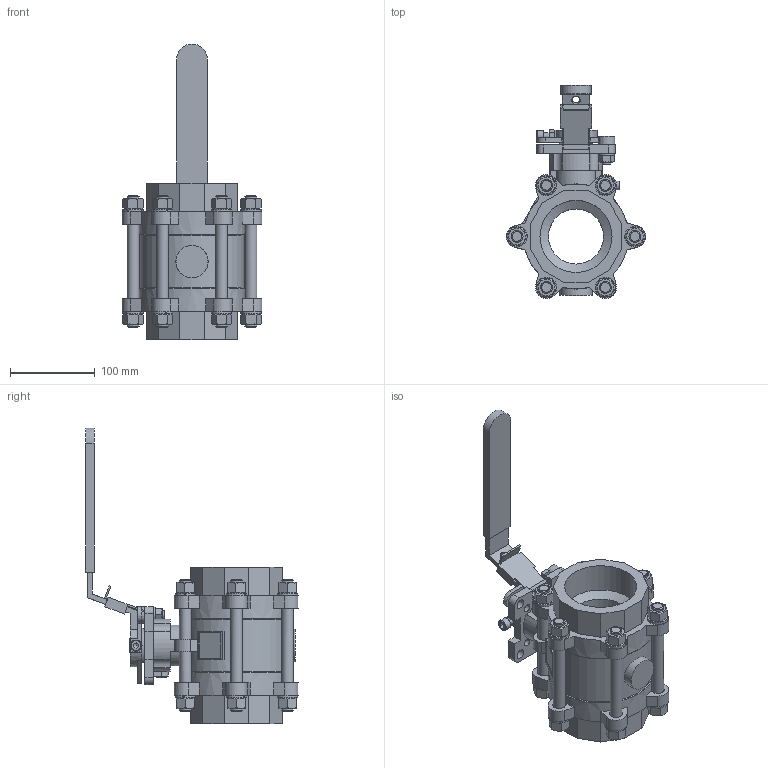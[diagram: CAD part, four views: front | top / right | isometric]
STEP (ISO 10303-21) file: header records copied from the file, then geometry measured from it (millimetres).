
FILE_DESCRIPTION(/* description */ ('Eriks item no: 13278906'),/* implementation_level */ '2;1');
FILE_NAME(/* name */ 'L:\DATA\ENG\Inventor\Econ 3D modellen\kogelkranen\7442\Rubens Versie\7442-DN80-RB.stp',/* time_stamp */ '2023-06-08T08:21:34+02:00',/* author */ ('roger.thijssen'),/* organization */ (''),/* preprocessor_version */ 'ST-DEVELOPER v18',/* originating_system */ 'Autodesk Inventor 2020',/* authorisation */ '');
FILE_SCHEMA (('CONFIG_CONTROL_DESIGN'));
Length unit declared in the file: millimetre
Products named in the file (1): Ball valve, 7442 - 3" - RB, (TF4103)
Bounding box: 164.9 x 251.03 x 349 mm (x, y, z)
Volume: 1797378.1 mm3; surface area: 275003.3 mm2
Topology: 1 solids, 1 shells, 809 faces, 2225 edges, 1449 vertices
Faces by surface type: plane 525, cylinder 184, cone 67, bspline 30, torus 3
Full cylindrical faces by diameter (mm): 8 x2, 9 x4, 10 x4, 11 x5, 12 x1, 13 x1, 14 x18, 15 x14, 19.2 x1, 38 x1, 47 x1, 55 x1, 65 x1, 84.926 x2, 122 x1, 124 x2
Entity records: 26362 total; most frequent: CARTESIAN_POINT 5630, ORIENTED_EDGE 4448, DIRECTION 4179, EDGE_CURVE 2224, AXIS2_PLACEMENT_3D 1477, VERTEX_POINT 1449, LINE 1225, VECTOR 1225
